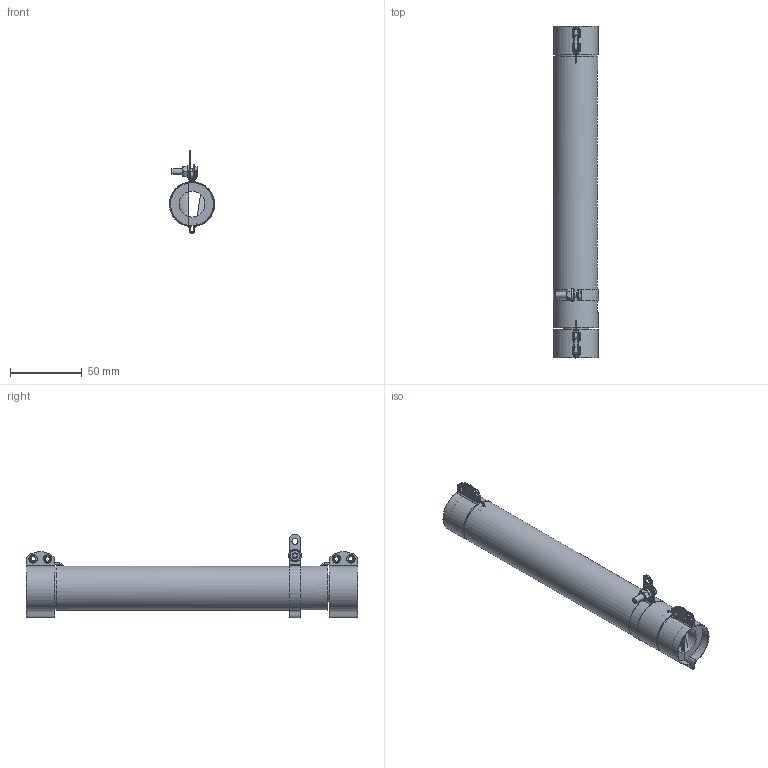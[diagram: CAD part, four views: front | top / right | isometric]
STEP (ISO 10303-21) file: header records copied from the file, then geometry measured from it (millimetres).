
FILE_DESCRIPTION(/* description */ (''),/* implementation_level */ '2;1');
FILE_NAME(/* name */ 'C:\_Vault\Dati\CATALOGO\RC-RS\RC-RS R TF\RSR TF 220.stp',/* time_stamp */ '2014-03-21T09:16:42+01:00',/* author */ ('stefano'),/* organization */ (''),/* preprocessor_version */ 'ST-DEVELOPER v15.2',/* originating_system */ 'Autodesk Inventor 2014',/* authorisation */ '');
FILE_SCHEMA (('AUTOMOTIVE_DESIGN { 1 0 10303 214 3 1 1 }'));
Length unit declared in the file: millimetre
Products named in the file (1): RSR TF 220
Bounding box: 31.57 x 232 x 58.36 mm (x, y, z)
Volume: 104442.4 mm3; surface area: 43169.9 mm2
Topology: 1 solids, 6 shells, 682 faces, 1922 edges, 1271 vertices
Faces by surface type: plane 478, cylinder 155, torus 20, cone 17, bspline 12
Full cylindrical faces by diameter (mm): 0.4 x2, 0.8 x4, 3.2 x4, 3.571 x1, 4 x2, 4.2 x11, 4.3 x1, 6 x8, 9 x1, 18 x1, 30 x3, 31 x1
Entity records: 23201 total; most frequent: CARTESIAN_POINT 4692, DIRECTION 3782, ORIENTED_EDGE 3684, EDGE_CURVE 1842, AXIS2_PLACEMENT_3D 1344, VERTEX_POINT 1252, LINE 1094, VECTOR 1094
